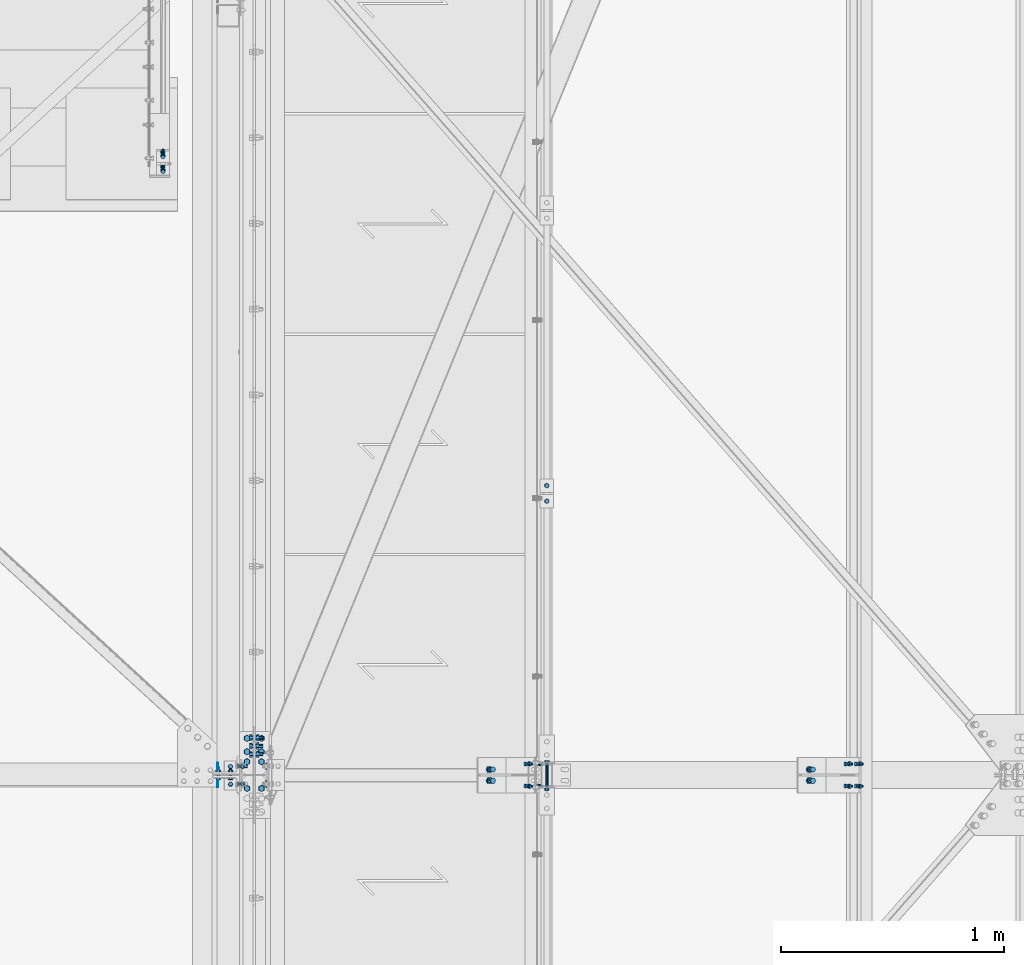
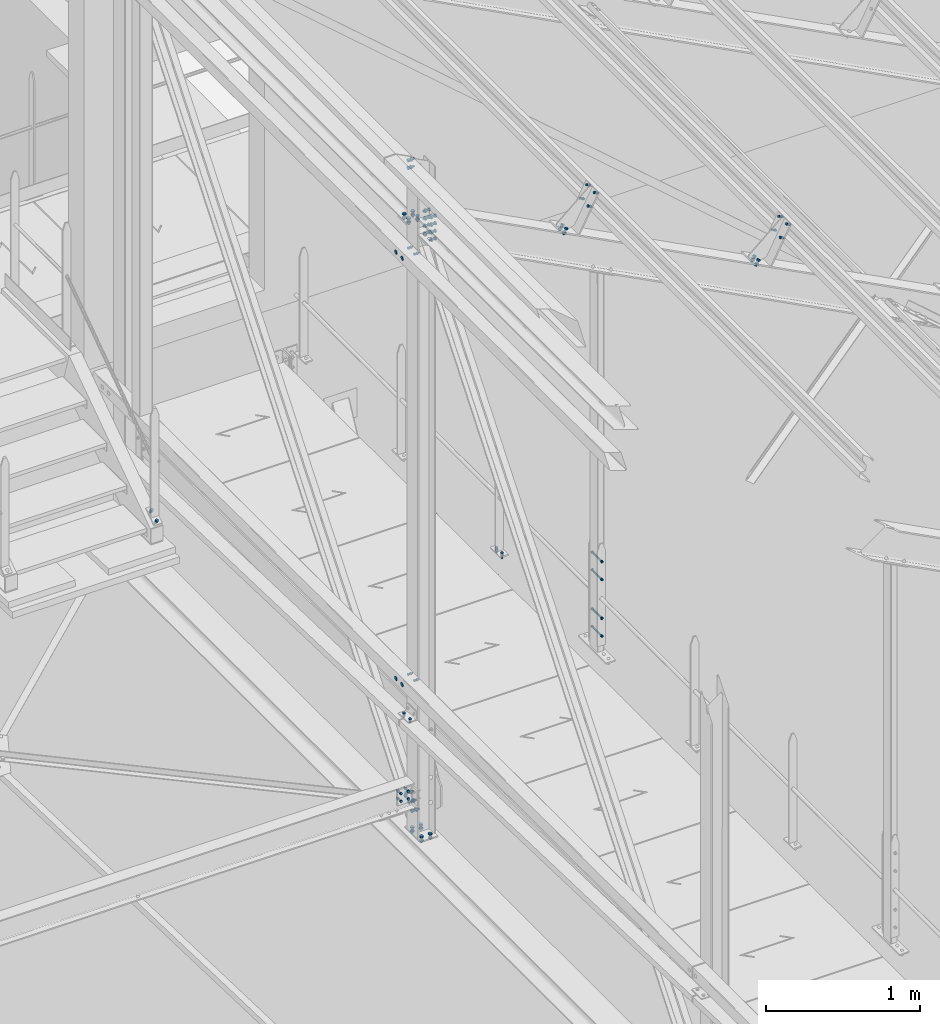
# One storey, part 156 of 362: 19 mechanical fasteners.
"""IFC2X3 building model written with IfcOpenShell, lengths in millimetres."""

from ifc_helpers import new_model, si_unit, frame, frame_2d, origin_with_axes, origin_2d_with_axis, place, context, subcontext, project, spatial, polyline, circle_curve, parameter, trimmed, segment, composite_curve, circle, outline, extrude, source, transform, mapped, material, type_object, element, save


model = new_model("IFC2X3")

# Units and contexts
model_context = context("Model", 3, precision=1e-05, world=origin_with_axes())
body_context = subcontext(model_context, "Body", "Model", "MODEL_VIEW")
ifc_project = project(units=[si_unit("LENGTHUNIT", "METRE", prefix="MILLI"), si_unit("AREAUNIT", "SQUARE_METRE"), si_unit("VOLUMEUNIT", "CUBIC_METRE"), si_unit("MASSUNIT", "GRAM", prefix="KILO"), si_unit("TIMEUNIT", "SECOND"), si_unit("PLANEANGLEUNIT", "RADIAN"), si_unit("SOLIDANGLEUNIT", "STERADIAN"), si_unit("THERMODYNAMICTEMPERATUREUNIT", "DEGREE_CELSIUS"), si_unit("LUMINOUSINTENSITYUNIT", "LUMEN")], contexts=[model_context])

# Site, building, storey
site_placement = place(None, origin_with_axes())
site = spatial("IfcSite", under=ifc_project, at=site_placement, Name="Undefined", CompositionType="ELEMENT")
building_placement = place(site_placement, origin_with_axes())
building = spatial("IfcBuilding", under=site, at=building_placement, Name="Undefined", CompositionType="ELEMENT")
storey_placement = place(building_placement, origin_with_axes())
storey = spatial("IfcBuildingStorey", under=building, at=storey_placement, Name="Undefined", CompositionType="ELEMENT", Elevation=0.0)

# Mechanical fasteners
ifc_material_1 = material(Name="8.8-SB-GALVA")
mechanical_fastener_type = type_object("IfcMechanicalFastenerType", Name="Bolt assembly")
shared_shape_1 = source(origin_with_axes(), body_context, "Body", "SweptSolid", [
    extrude(circle(Radius=7.0, at=origin_2d_with_axis()), frame((0.0, -0.0998569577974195, 0.0), z_axis=(0.0, 1.0, 0.0), x_axis=(1.0, 0.0, 0.0)), (0.0, 0.0, 1.0), 12.9),
    extrude(outline(composite_curve([segment(polyline([(-7.0, 7.0), (7.0, 7.0)]), True, "CONTINUOUS"), segment(trimmed(circle_curve(frame_2d((7.0, 0.0), x_axis=(0.0, 1.0)), 7.0), [parameter(0.0)], [parameter(3.14159265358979)], False, "PARAMETER"), True, "CONTINUOUS"), segment(polyline([(7.0, -7.0), (-7.0, -7.0)]), True, "CONTINUOUS"), segment(trimmed(circle_curve(frame_2d((-7.0, 0.0), x_axis=(0.0, -1.0)), 7.0), [parameter(0.0)], [parameter(3.14159265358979)], False, "PARAMETER"), True, "DISCONTINUOUS")], self_intersect=False)), frame((0.0, -9.9, 0.0), z_axis=(0.0, 1.0, 0.0), x_axis=(1.0, 0.0, 0.0)), (0.0, 0.0, 1.0), 10.0),
    extrude(outline(polyline([(10.39230484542, 0.0), (5.19615242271, 9.00000000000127), (-5.19615242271, 9.00000000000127), (-10.39230484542, 0.0), (-5.19615242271, -9.00000000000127), (5.19615242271, -9.00000000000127), (10.39230484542, 0.0)])), frame((0.0, -21.88, 0.0), z_axis=(0.0, 1.0, 0.0), x_axis=(1.0, 0.0, 0.0)), (0.0, 0.0, 1.0), 7.92),
    extrude(circle(Radius=6.0, at=origin_2d_with_axis()), frame((0.0, -13.96, 0.0), z_axis=(0.0, 1.0, 0.0), x_axis=(1.0, 0.0, 0.0)), (0.0, 0.0, 1.0), 50.0),
    extrude(circle(Radius=10.8, at=origin_2d_with_axis()), frame((0.0, -13.96, 0.0), z_axis=(0.0, 1.0, 0.0), x_axis=(1.0, 0.0, 0.0)), (0.0, 0.0, 1.0), 3.96),
    extrude(outline(polyline([(11.5008173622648, 0.0), (5.7504086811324, 9.96000000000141), (-5.7504086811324, 9.96000000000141), (-11.5008173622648, 0.0), (-5.7504086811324, -9.96000000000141), (5.7504086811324, -9.96000000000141), (11.5008173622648, 0.0)])), frame((0.0, 12.8001574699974, 0.0), z_axis=(0.0, 1.0, 0.0), x_axis=(1.0, 0.0, 0.0)), (0.0, 0.0, 1.0), 7.92),
])
mechanical_fastener_1_placement = place(storey_placement, frame((12269.9936634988, 14121.9152267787, 8200.9414556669), z_axis=(-1.0, 0.0, 0.0), x_axis=(0.0, 0.822192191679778, 0.56920997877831)))
element("IfcMechanicalFastener", 1, at=mechanical_fastener_1_placement, inside=storey, type_object=mechanical_fastener_type, material=ifc_material_1, Name="Bolt assembly", NominalDiameter=12.0, NominalLength=50.0, context=body_context, shape_type="MappedRepresentation", body=[
    mapped(shared_shape_1, transform((0.0, 0.0, 0.0))),
    mapped(shared_shape_1, transform((80.0, 0.0, 0.0))),
])
ifc_material_2 = material(Name="6.8")
shared_shape_2 = source(origin_with_axes(), body_context, "Body", "SweptSolid", [
    extrude(circle(Radius=15.0, at=origin_2d_with_axis()), frame((0.0, 0.0, 0.0), z_axis=(0.0, 1.0, 0.0), x_axis=(1.0, 0.0, 0.0)), (0.0, 0.0, 1.0), 4.1),
])
mechanical_fastener_2_placement = place(storey_placement, frame((12513.5000000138, 11400.0, 11870.0), z_axis=(0.0, 1.0, 0.0), x_axis=(0.0, 0.0, 1.0)))
element("IfcMechanicalFastener", 2, at=mechanical_fastener_2_placement, inside=storey, type_object=mechanical_fastener_type, material=ifc_material_2, Name="Bolt assembly", NominalDiameter=30.0, NominalLength=4.0, context=body_context, shape_type="MappedRepresentation", body=[
    mapped(shared_shape_2, transform((0.0, 0.0, 40.0))),
    mapped(shared_shape_2, transform((0.0, 0.0, -40.0))),
])
mechanical_fastener_3_placement = place(storey_placement, frame((12513.5000000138, 11400.0, 8500.0), z_axis=(0.0, -1.0, 0.0), x_axis=(0.0, 0.0, -1.0)))
element("IfcMechanicalFastener", 3, at=mechanical_fastener_3_placement, inside=storey, type_object=mechanical_fastener_type, material=ifc_material_2, Name="Bolt assembly", NominalDiameter=30.0, NominalLength=4.0, context=body_context, shape_type="MappedRepresentation", body=[
    mapped(shared_shape_2, transform((0.0, 0.0, -40.0))),
    mapped(shared_shape_2, transform((0.0, 0.0, 40.0))),
])
ifc_material_3 = material(Name="8.8-SB-ZINGUE")
shared_shape_3 = source(origin_with_axes(), body_context, "Body", "SweptSolid", [
    extrude(circle(Radius=9.0, at=origin_2d_with_axis()), frame((0.0, -10.9000000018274, 0.0), z_axis=(0.0, 1.0, 0.0), x_axis=(1.0, 0.0, 0.0)), (0.0, 0.0, 1.0), 6.0),
    extrude(circle(Radius=9.0, at=origin_2d_with_axis()), frame((0.0, 4.9000000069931, 0.0), z_axis=(0.0, 1.0, 0.0), x_axis=(1.0, 0.0, 0.0)), (0.0, 0.0, 1.0), 6.1),
    extrude(circle(Radius=9.0, at=origin_2d_with_axis()), frame((0.0, -3.99999923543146, 0.0), z_axis=(0.0, 1.0, 0.0), x_axis=(1.0, 0.0, 0.0)), (0.0, 0.0, 1.0), 8.0),
    extrude(outline(polyline([(13.85640646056, 0.0), (6.92820323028, 12.0000000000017), (-6.92820323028, 12.0000000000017), (-13.85640646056, 0.0), (-6.92820323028, -12.0000000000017), (6.92820323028, -12.0000000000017), (13.85640646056, 0.0)])), frame((0.0, -21.5600000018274, 0.0), z_axis=(0.0, 1.0, 0.0), x_axis=(1.0, 0.0, 0.0)), (0.0, 0.0, 1.0), 10.56),
    extrude(circle(Radius=8.0, at=origin_2d_with_axis()), frame((0.0, -11.0000000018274, 0.0), z_axis=(0.0, 1.0, 0.0), x_axis=(1.0, 0.0, 0.0)), (0.0, 0.0, 1.0), 50.0),
    extrude(outline(polyline([(15.3344231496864, 0.0), (7.6672115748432, 13.2800000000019), (-7.6672115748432, 13.2800000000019), (-15.3344231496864, 0.0), (-7.6672115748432, -13.2800000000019), (7.6672115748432, -13.2800000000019), (15.3344231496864, 0.0)])), frame((0.0, 11.0000000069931, 0.0), z_axis=(0.0, 1.0, 0.0), x_axis=(1.0, 0.0, 0.0)), (0.0, 0.0, 1.0), 10.56),
])
mechanical_fastener_4_placement = place(storey_placement, frame((12680.0, 11493.2606296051, 7367.48384980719), z_axis=(0.0, 0.783225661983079, -0.621737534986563), x_axis=(0.0, 0.621737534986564, 0.783225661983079)))
element("IfcMechanicalFastener", 4, at=mechanical_fastener_4_placement, inside=storey, type_object=mechanical_fastener_type, material=ifc_material_3, Name="Bolt assembly", NominalDiameter=16.0, NominalLength=50.0, context=body_context, shape_type="MappedRepresentation", body=[
    mapped(shared_shape_3, transform((0.0, 0.0, 0.0))),
    mapped(shared_shape_3, transform((60.0, 0.0, 0.0))),
    mapped(shared_shape_3, transform((120.0, 0.0, 0.0))),
])
shared_shape_4 = source(origin_with_axes(), body_context, "Body", "SweptSolid", [
    extrude(circle(Radius=7.0, at=origin_2d_with_axis()), frame((0.0, -10.0000010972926, 0.0), z_axis=(0.0, 1.0, 0.0), x_axis=(1.0, 0.0, 0.0)), (0.0, 0.0, 1.0), 10.1),
    extrude(outline(polyline([(10.39230484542, 0.0), (5.19615242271, 9.00000000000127), (-5.19615242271, 9.00000000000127), (-10.39230484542, 0.0), (-5.19615242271, -9.00000000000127), (5.19615242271, -9.00000000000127), (10.39230484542, 0.0)])), frame((0.0, -17.92, 0.0), z_axis=(0.0, 1.0, 0.0), x_axis=(1.0, 0.0, 0.0)), (0.0, 0.0, 1.0), 7.92),
    extrude(circle(Radius=6.0, at=origin_2d_with_axis()), frame((0.0, -10.0000010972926, 0.0), z_axis=(0.0, 1.0, 0.0), x_axis=(1.0, 0.0, 0.0)), (0.0, 0.0, 1.0), 40.0),
    extrude(outline(polyline([(11.5008173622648, 0.0), (5.7504086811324, 9.96000000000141), (-5.7504086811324, 9.96000000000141), (-11.5008173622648, 0.0), (-5.7504086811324, -9.96000000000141), (5.7504086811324, -9.96000000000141), (11.5008173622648, 0.0)])), frame((0.0, 0.0, 0.0), z_axis=(0.0, 1.0, 0.0), x_axis=(1.0, 0.0, 0.0)), (0.0, 0.0, 1.0), 7.92),
])
mechanical_fastener_5_placement = place(storey_placement, frame((13993.9998915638, 12630.0034471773, 8239.99999832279), z_axis=(-1.0, 0.0, 0.0), x_axis=(0.0, 1.0, 0.0)))
element("IfcMechanicalFastener", 5, at=mechanical_fastener_5_placement, inside=storey, type_object=mechanical_fastener_type, material=ifc_material_3, Name="Bolt assembly", NominalDiameter=12.0, NominalLength=40.0, context=body_context, shape_type="MappedRepresentation", body=[
    mapped(shared_shape_4, transform((0.0, 0.0, 0.0))),
    mapped(shared_shape_4, transform((70.0, -2.91038304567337e-11, 2.18278728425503e-10))),
])
shared_shape_5 = source(origin_with_axes(), body_context, "Body", "SweptSolid", [
    extrude(circle(Radius=7.0, at=origin_2d_with_axis()), frame((0.0, -49.9999013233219, 0.0), z_axis=(0.0, 1.0, 0.0), x_axis=(1.0, 0.0, 0.0)), (0.0, 0.0, 1.0), 100.0),
    extrude(circle(Radius=7.0, at=origin_2d_with_axis()), frame((0.0, -57.3998951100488, 0.0), z_axis=(0.0, 1.0, 0.0), x_axis=(1.0, 0.0, 0.0)), (0.0, 0.0, 1.0), 5.0),
    extrude(circle(Radius=7.0, at=origin_2d_with_axis()), frame((0.0, 52.4001048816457, 0.0), z_axis=(0.0, 1.0, 0.0), x_axis=(1.0, 0.0, 0.0)), (0.0, 0.0, 1.0), 5.1),
    extrude(outline(polyline([(10.96965511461, 0.0), (5.484827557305, 9.50000000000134), (-5.484827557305, 9.50000000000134), (-10.96965511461, 0.0), (-5.484827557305, -9.50000000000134), (5.484827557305, -9.50000000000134), (10.96965511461, 0.0)])), frame((0.0, -65.4998951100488, 0.0), z_axis=(0.0, 1.0, 0.0), x_axis=(1.0, 0.0, 0.0)), (0.0, 0.0, 1.0), 8.0),
    extrude(circle(Radius=6.0, at=origin_2d_with_axis()), frame((0.0, -57.4998951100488, 0.0), z_axis=(0.0, 1.0, 0.0), x_axis=(1.0, 0.0, 0.0)), (0.0, 0.0, 1.0), 130.0),
    extrude(outline(polyline([(10.39230484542, 0.0), (5.19615242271, 9.00000000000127), (-5.19615242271, 9.00000000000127), (-10.39230484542, 0.0), (-5.19615242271, -9.00000000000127), (5.19615242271, -9.00000000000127), (10.39230484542, 0.0)])), frame((0.0, 57.5001048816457, 0.0), z_axis=(0.0, 1.0, 0.0), x_axis=(1.0, 0.0, 0.0)), (0.0, 0.0, 1.0), 10.8),
])
for number, where, z_axis, x_axis, name in (
    (6, (13993.9998909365, 11400.0001139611, 8450.1750016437), (0.0, 0.0, 1.0), (-1.0, 0.0, 0.0), "Bolt assembly"),
    (7, (13993.9998909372, 11400.0001143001, 8897.42499864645), (0.0, 0.0, 1.0), (-1.0, 0.0, 0.0), "Bolt assembly"),
):
    element("IfcMechanicalFastener", number, at=place(storey_placement, frame(where, z_axis=z_axis, x_axis=x_axis)), inside=storey, type_object=mechanical_fastener_type, material=ifc_material_2, Name=name, NominalDiameter=12.0, NominalLength=130.0, context=body_context, shape_type="MappedRepresentation", body=[
        mapped(shared_shape_5, transform((0.0, 6.3664629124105e-11, -70.0))),
        mapped(shared_shape_5, transform((0.0, -6.3664629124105e-11, 70.0))),
    ])
shared_shape_6 = source(origin_with_axes(), body_context, "Body", "SweptSolid", [
    extrude(circle(Radius=7.0, at=origin_2d_with_axis()), frame((0.0, -0.100011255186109, 0.0), z_axis=(0.0, 1.0, 0.0), x_axis=(1.0, 0.0, 0.0)), (0.0, 0.0, 1.0), 1.6),
    extrude(circle(Radius=7.0, at=origin_2d_with_axis()), frame((0.0, -9.9, 0.0), z_axis=(0.0, 1.0, 0.0), x_axis=(1.0, 0.0, 0.0)), (0.0, 0.0, 1.0), 10.0),
    extrude(outline(polyline([(10.39230484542, 0.0), (5.19615242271, 9.00000000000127), (-5.19615242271, 9.00000000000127), (-10.39230484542, 0.0), (-5.19615242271, -9.00000000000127), (5.19615242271, -9.00000000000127), (10.39230484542, 0.0)])), frame((0.0, -17.92, 0.0), z_axis=(0.0, 1.0, 0.0), x_axis=(1.0, 0.0, 0.0)), (0.0, 0.0, 1.0), 7.92),
    extrude(circle(Radius=6.0, at=origin_2d_with_axis()), frame((0.0, -10.0000010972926, 0.0), z_axis=(0.0, 1.0, 0.0), x_axis=(1.0, 0.0, 0.0)), (0.0, 0.0, 1.0), 30.0),
    extrude(outline(polyline([(11.5008173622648, 0.0), (5.7504086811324, 9.96000000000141), (-5.7504086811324, 9.96000000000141), (-11.5008173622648, 0.0), (-5.7504086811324, -9.96000000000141), (5.7504086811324, -9.96000000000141), (11.5008173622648, 0.0)])), frame((0.0, 1.50001896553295, 0.0), z_axis=(0.0, 1.0, 0.0), x_axis=(1.0, 0.0, 0.0)), (0.0, 0.0, 1.0), 7.92),
])
for number, where, z_axis, x_axis, name in (
    (8, (13910.5352247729, 11400.0000596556, 11798.7689104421), (0.0, 1.0, 0.0), (0.463528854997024, 6.99999093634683e-09, 0.886081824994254), "Bolt assembly"),
    (9, (15347.8352673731, 11400.0000596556, 11046.8866202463), (0.0, 1.0, 0.0), (0.463528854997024, 6.99999093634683e-09, 0.886081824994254), "Bolt assembly"),
):
    element("IfcMechanicalFastener", number, at=place(storey_placement, frame(where, z_axis=z_axis, x_axis=x_axis)), inside=storey, type_object=mechanical_fastener_type, material=ifc_material_3, Name=name, NominalDiameter=12.0, NominalLength=30.0, context=body_context, shape_type="MappedRepresentation", body=[
        mapped(shared_shape_6, transform((0.0, 0.0, -50.0))),
        mapped(shared_shape_6, transform((102.00000000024, -2.51020537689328e-10, -50.0))),
        mapped(shared_shape_6, transform((0.0, 0.0, 50.0))),
        mapped(shared_shape_6, transform((102.00000000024, -2.51020537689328e-10, 50.0))),
    ])
shared_shape_7 = source(origin_with_axes(), body_context, "Body", "SweptSolid", [
    extrude(circle(Radius=9.0, at=origin_2d_with_axis()), frame((0.0, -0.10007666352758, 0.0), z_axis=(0.0, 1.0, 0.0), x_axis=(1.0, 0.0, 0.0)), (0.0, 0.0, 1.0), 9.9),
    extrude(circle(Radius=9.0, at=origin_2d_with_axis()), frame((0.0, -9.9, 0.0), z_axis=(0.0, 1.0, 0.0), x_axis=(1.0, 0.0, 0.0)), (0.0, 0.0, 1.0), 10.0),
    extrude(outline(polyline([(13.85640646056, 0.0), (6.92820323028, 12.0000000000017), (-6.92820323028, 12.0000000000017), (-13.85640646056, 0.0), (-6.92820323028, -12.0000000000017), (6.92820323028, -12.0000000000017), (13.85640646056, 0.0)])), frame((0.0, -20.5600000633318, 0.0), z_axis=(0.0, 1.0, 0.0), x_axis=(1.0, 0.0, 0.0)), (0.0, 0.0, 1.0), 10.56),
    extrude(circle(Radius=8.0, at=origin_2d_with_axis()), frame((0.0, -10.0000010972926, 0.0), z_axis=(0.0, 1.0, 0.0), x_axis=(1.0, 0.0, 0.0)), (0.0, 0.0, 1.0), 40.0),
    extrude(outline(polyline([(15.3344231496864, 0.0), (7.6672115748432, 13.2800000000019), (-7.6672115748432, 13.2800000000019), (-15.3344231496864, 0.0), (-7.6672115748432, -13.2800000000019), (7.6672115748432, -13.2800000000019), (15.3344231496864, 0.0)])), frame((0.0, 9.7999015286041, 0.0), z_axis=(0.0, 1.0, 0.0), x_axis=(1.0, 0.0, 0.0)), (0.0, 0.0, 1.0), 10.56),
])
mechanical_fastener_6_placement = place(storey_placement, frame((13742.7711979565, 11400.0000375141, 11650.660042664), z_axis=(0.0, 1.0, 0.0), x_axis=(0.886081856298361, 3.500000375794e-08, -0.463528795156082)))
element("IfcMechanicalFastener", 10, at=mechanical_fastener_6_placement, inside=storey, type_object=mechanical_fastener_type, material=ifc_material_3, Name="Bolt assembly", NominalDiameter=16.0, NominalLength=40.0, context=body_context, shape_type="MappedRepresentation", body=[
    mapped(shared_shape_7, transform((0.0, 0.0, -25.0))),
    mapped(shared_shape_7, transform((0.0, 0.0, 25.0))),
])
shared_shape_8 = source(origin_with_axes(), body_context, "Body", "SweptSolid", [
    extrude(circle(Radius=9.0, at=origin_2d_with_axis()), frame((0.0, -0.100011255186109, 0.0), z_axis=(0.0, 1.0, 0.0), x_axis=(1.0, 0.0, 0.0)), (0.0, 0.0, 1.0), 9.9),
    extrude(circle(Radius=9.0, at=origin_2d_with_axis()), frame((0.0, -9.9, 0.0), z_axis=(0.0, 1.0, 0.0), x_axis=(1.0, 0.0, 0.0)), (0.0, 0.0, 1.0), 10.0),
    extrude(outline(polyline([(13.85640646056, 0.0), (6.92820323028, 12.0000000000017), (-6.92820323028, 12.0000000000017), (-13.85640646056, 0.0), (-6.92820323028, -12.0000000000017), (6.92820323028, -12.0000000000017), (13.85640646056, 0.0)])), frame((0.0, -20.5600000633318, 0.0), z_axis=(0.0, 1.0, 0.0), x_axis=(1.0, 0.0, 0.0)), (0.0, 0.0, 1.0), 10.56),
    extrude(circle(Radius=8.0, at=origin_2d_with_axis()), frame((0.0, -10.0000010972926, 0.0), z_axis=(0.0, 1.0, 0.0), x_axis=(1.0, 0.0, 0.0)), (0.0, 0.0, 1.0), 40.0),
    extrude(outline(polyline([(15.3344231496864, 0.0), (7.6672115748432, 13.2800000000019), (-7.6672115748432, 13.2800000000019), (-15.3344231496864, 0.0), (-7.6672115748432, -13.2800000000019), (7.6672115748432, -13.2800000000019), (15.3344231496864, 0.0)])), frame((0.0, 9.80000019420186, 0.0), z_axis=(0.0, 1.0, 0.0), x_axis=(1.0, 0.0, 0.0)), (0.0, 0.0, 1.0), 10.56),
])
mechanical_fastener_7_placement = place(storey_placement, frame((15180.0712405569, 11400.0000375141, 10898.7777524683), z_axis=(0.0, 1.0, 0.0), x_axis=(0.886081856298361, 3.500000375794e-08, -0.463528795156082)))
element("IfcMechanicalFastener", 11, at=mechanical_fastener_7_placement, inside=storey, type_object=mechanical_fastener_type, material=ifc_material_3, Name="Bolt assembly", NominalDiameter=16.0, NominalLength=40.0, context=body_context, shape_type="MappedRepresentation", body=[
    mapped(shared_shape_8, transform((0.0, 0.0, -25.0))),
    mapped(shared_shape_8, transform((0.0, 0.0, 25.0))),
])
shared_shape_9 = source(origin_with_axes(), body_context, "Body", "SweptSolid", [
    extrude(circle(Radius=9.0, at=origin_2d_with_axis()), frame((0.0, -0.091713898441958, 0.0), z_axis=(0.0, 1.0, 0.0), x_axis=(1.0, 0.0, 0.0)), (0.0, 0.0, 1.0), 8.6),
    extrude(circle(Radius=9.0, at=origin_2d_with_axis()), frame((0.0, -9.89171439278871, 0.0), z_axis=(0.0, 1.0, 0.0), x_axis=(1.0, 0.0, 0.0)), (0.0, 0.0, 1.0), 10.0),
    extrude(outline(polyline([(13.85640646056, 0.0), (6.92820323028, 12.0000000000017), (-6.92820323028, 12.0000000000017), (-13.85640646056, 0.0), (-6.92820323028, -12.0000000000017), (6.92820323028, -12.0000000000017), (13.85640646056, 0.0)])), frame((0.0, -20.5517143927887, 0.0), z_axis=(0.0, 1.0, 0.0), x_axis=(1.0, 0.0, 0.0)), (0.0, 0.0, 1.0), 10.56),
    extrude(circle(Radius=8.0, at=origin_2d_with_axis()), frame((0.0, -9.99171439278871, 0.0), z_axis=(0.0, 1.0, 0.0), x_axis=(1.0, 0.0, 0.0)), (0.0, 0.0, 1.0), 40.0),
    extrude(outline(polyline([(15.3344231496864, 0.0), (7.6672115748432, 13.2800000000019), (-7.6672115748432, 13.2800000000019), (-15.3344231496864, 0.0), (-7.6672115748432, -13.2800000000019), (7.6672115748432, -13.2800000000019), (15.3344231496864, 0.0)])), frame((0.0, 8.50828610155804, 0.0), z_axis=(0.0, 1.0, 0.0), x_axis=(1.0, 0.0, 0.0)), (0.0, 0.0, 1.0), 10.56),
])
mechanical_fastener_8_placement = place(storey_placement, frame((12746.5082856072, 11360.0, 12031.1720690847), z_axis=(0.0, 0.0, 1.0), x_axis=(0.0, 1.0, 0.0)))
element("IfcMechanicalFastener", 12, at=mechanical_fastener_8_placement, inside=storey, type_object=mechanical_fastener_type, material=ifc_material_3, Name="Bolt assembly", NominalDiameter=16.0, NominalLength=40.0, context=body_context, shape_type="MappedRepresentation", body=[
    mapped(shared_shape_9, transform((-8.00355337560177e-11, 1.57342583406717e-10, -90.000000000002))),
    mapped(shared_shape_9, transform((80.0, 0.0, -90.0))),
    mapped(shared_shape_9, transform((0.0, 0.0, -30.0))),
    mapped(shared_shape_9, transform((80.0, 0.0, -30.0))),
    mapped(shared_shape_9, transform((0.0, 0.0, 30.0))),
    mapped(shared_shape_9, transform((80.0, 0.0, 30.0))),
    mapped(shared_shape_9, transform((8.36735125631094e-11, -1.5825207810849e-10, 90.0))),
    mapped(shared_shape_9, transform((80.0, 0.0, 90.0))),
])
shared_shape_10 = source(origin_with_axes(), body_context, "Body", "SweptSolid", [
    extrude(circle(Radius=7.0, at=origin_2d_with_axis()), frame((0.0, -0.100011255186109, 0.0), z_axis=(0.0, 1.0, 0.0), x_axis=(1.0, 0.0, 0.0)), (0.0, 0.0, 1.0), 8.6),
    extrude(circle(Radius=7.0, at=origin_2d_with_axis()), frame((0.0, -3.89999843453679, 0.0), z_axis=(0.0, 1.0, 0.0), x_axis=(1.0, 0.0, 0.0)), (0.0, 0.0, 1.0), 4.0),
    extrude(outline(polyline([(10.39230484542, 0.0), (5.19615242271, 9.00000000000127), (-5.19615242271, 9.00000000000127), (-10.39230484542, 0.0), (-5.19615242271, -9.00000000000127), (5.19615242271, -9.00000000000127), (10.39230484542, 0.0)])), frame((0.0, -11.9199984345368, 0.0), z_axis=(0.0, 1.0, 0.0), x_axis=(1.0, 0.0, 0.0)), (0.0, 0.0, 1.0), 7.92),
    extrude(circle(Radius=6.0, at=origin_2d_with_axis()), frame((0.0, -3.99999923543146, 0.0), z_axis=(0.0, 1.0, 0.0), x_axis=(1.0, 0.0, 0.0)), (0.0, 0.0, 1.0), 30.0),
    extrude(outline(polyline([(11.5008173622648, 0.0), (5.7504086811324, 9.96000000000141), (-5.7504086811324, 9.96000000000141), (-11.5008173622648, 0.0), (-5.7504086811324, -9.96000000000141), (5.7504086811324, -9.96000000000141), (11.5008173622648, 0.0)])), frame((0.0, 8.49999994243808, 0.0), z_axis=(0.0, 1.0, 0.0), x_axis=(1.0, 0.0, 0.0)), (0.0, 0.0, 1.0), 7.92),
])
for number, where, z_axis, x_axis, name in (
    (13, (12613.5, 11400.0, 11869.9999981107), (0.0, 1.0, 0.0), (0.0, 0.0, 1.0), "Bolt assembly"),
    (14, (12613.5, 11400.0, 8500.00000188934), (0.0, -1.0, 0.0), (0.0, 0.0, -1.0), "Bolt assembly"),
):
    element("IfcMechanicalFastener", number, at=place(storey_placement, frame(where, z_axis=z_axis, x_axis=x_axis)), inside=storey, type_object=mechanical_fastener_type, material=ifc_material_3, Name=name, NominalDiameter=12.0, NominalLength=30.0, context=body_context, shape_type="MappedRepresentation", body=[
        mapped(shared_shape_10, transform((0.0, 0.0, -40.0))),
        mapped(shared_shape_10, transform((0.0, 0.0, 40.0))),
    ])
shared_shape_11 = source(origin_with_axes(), body_context, "Body", "SweptSolid", [
    extrude(circle(Radius=9.0, at=origin_2d_with_axis()), frame((0.0, -0.100011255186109, 0.0), z_axis=(0.0, 1.0, 0.0), x_axis=(1.0, 0.0, 0.0)), (0.0, 0.0, 1.0), 8.6),
    extrude(circle(Radius=9.0, at=origin_2d_with_axis()), frame((0.0, -2.9, 0.0), z_axis=(0.0, 1.0, 0.0), x_axis=(1.0, 0.0, 0.0)), (0.0, 0.0, 1.0), 3.0),
    extrude(outline(polyline([(13.85640646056, 0.0), (6.92820323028, 12.0000000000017), (-6.92820323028, 12.0000000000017), (-13.85640646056, 0.0), (-6.92820323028, -12.0000000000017), (6.92820323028, -12.0000000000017), (13.85640646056, 0.0)])), frame((0.0, -13.56, 0.0), z_axis=(0.0, 1.0, 0.0), x_axis=(1.0, 0.0, 0.0)), (0.0, 0.0, 1.0), 10.56),
    extrude(circle(Radius=8.0, at=origin_2d_with_axis()), frame((0.0, -2.99999932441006, 0.0), z_axis=(0.0, 1.0, 0.0), x_axis=(1.0, 0.0, 0.0)), (0.0, 0.0, 1.0), 40.0),
    extrude(outline(polyline([(15.3344231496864, 0.0), (7.6672115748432, 13.2800000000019), (-7.6672115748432, 13.2800000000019), (-15.3344231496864, 0.0), (-7.6672115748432, -13.2800000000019), (7.6672115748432, -13.2800000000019), (15.3344231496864, 0.0)])), frame((0.0, 8.49999994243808, 0.0), z_axis=(0.0, 1.0, 0.0), x_axis=(1.0, 0.0, 0.0)), (0.0, 0.0, 1.0), 10.56),
])
mechanical_fastener_9_placement = place(storey_placement, frame((12613.5000000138, 11439.9969509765, 12503.832072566), z_axis=(0.0, 1.0, 0.0), x_axis=(0.0, 0.0, 1.0)))
element("IfcMechanicalFastener", 15, at=mechanical_fastener_9_placement, inside=storey, type_object=mechanical_fastener_type, material=ifc_material_3, Name="Bolt assembly", NominalDiameter=16.0, NominalLength=40.0, context=body_context, shape_type="MappedRepresentation", body=[
    mapped(shared_shape_11, transform((0.0, 0.0, 0.0))),
    mapped(shared_shape_11, transform((60.0, 0.0, 0.0))),
])
shared_shape_12 = source(origin_with_axes(), body_context, "Body", "SweptSolid", [
    extrude(circle(Radius=7.0, at=origin_2d_with_axis()), frame((0.0, -0.10007666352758, 0.0), z_axis=(0.0, 1.0, 0.0), x_axis=(1.0, 0.0, 0.0)), (0.0, 0.0, 1.0), 4.1),
    extrude(circle(Radius=7.0, at=origin_2d_with_axis()), frame((0.0, -6.9, 0.0), z_axis=(0.0, 1.0, 0.0), x_axis=(1.0, 0.0, 0.0)), (0.0, 0.0, 1.0), 7.0),
    extrude(outline(polyline([(10.39230484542, 0.0), (5.19615242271, 9.00000000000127), (-5.19615242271, 9.00000000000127), (-10.39230484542, 0.0), (-5.19615242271, -9.00000000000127), (5.19615242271, -9.00000000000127), (10.39230484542, 0.0)])), frame((0.0, -14.92, 0.0), z_axis=(0.0, 1.0, 0.0), x_axis=(1.0, 0.0, 0.0)), (0.0, 0.0, 1.0), 7.92),
    extrude(circle(Radius=6.0, at=origin_2d_with_axis()), frame((0.0, -7.0, 0.0), z_axis=(0.0, 1.0, 0.0), x_axis=(1.0, 0.0, 0.0)), (0.0, 0.0, 1.0), 30.0),
    extrude(outline(polyline([(11.5008173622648, 0.0), (5.7504086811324, 9.96000000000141), (-5.7504086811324, 9.96000000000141), (-11.5008173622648, 0.0), (-5.7504086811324, -9.96000000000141), (5.7504086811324, -9.96000000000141), (11.5008173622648, 0.0)])), frame((0.0, 4.00000005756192, 0.0), z_axis=(0.0, 1.0, 0.0), x_axis=(1.0, 0.0, 0.0)), (0.0, 0.0, 1.0), 7.92),
])
mechanical_fastener_10_placement = place(storey_placement, frame((12573.5000000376, 11398.7434557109, 8197.04057146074), z_axis=(0.0, 0.99950644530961, -0.0314144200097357), x_axis=(1.0, 0.0, 0.0)))
element("IfcMechanicalFastener", 16, at=mechanical_fastener_10_placement, inside=storey, type_object=mechanical_fastener_type, material=ifc_material_3, Name="Bolt assembly", NominalDiameter=12.0, NominalLength=30.0, context=body_context, shape_type="MappedRepresentation", body=[
    mapped(shared_shape_12, transform((0.0, 0.0, -40.0))),
    mapped(shared_shape_12, transform((0.0, 0.0, 40.0))),
])
shared_shape_13 = source(origin_with_axes(), body_context, "Body", "SweptSolid", [
    extrude(circle(Radius=7.0, at=origin_2d_with_axis()), frame((0.0, -2.80024280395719, 0.0), z_axis=(0.0, 1.0, 0.0), x_axis=(1.0, 0.0, 0.0)), (0.0, 0.0, 1.0), 5.6),
    extrude(circle(Radius=7.0, at=origin_2d_with_axis()), frame((0.0, -12.9001594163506, 0.0), z_axis=(0.0, 1.0, 0.0), x_axis=(1.0, 0.0, 0.0)), (0.0, 0.0, 1.0), 10.0),
    extrude(circle(Radius=7.0, at=origin_2d_with_axis()), frame((0.0, 2.90070287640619, 0.0), z_axis=(0.0, 1.0, 0.0), x_axis=(1.0, 0.0, 0.0)), (0.0, 0.0, 1.0), 10.1),
    extrude(outline(polyline([(10.39230484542, 0.0), (5.19615242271, 9.00000000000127), (-5.19615242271, 9.00000000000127), (-10.39230484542, 0.0), (-5.19615242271, -9.00000000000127), (5.19615242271, -9.00000000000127), (10.39230484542, 0.0)])), frame((0.0, -20.9201594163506, 0.0), z_axis=(0.0, 1.0, 0.0), x_axis=(1.0, 0.0, 0.0)), (0.0, 0.0, 1.0), 7.92),
    extrude(circle(Radius=6.0, at=origin_2d_with_axis()), frame((0.0, -13.0001594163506, 0.0), z_axis=(0.0, 1.0, 0.0), x_axis=(1.0, 0.0, 0.0)), (0.0, 0.0, 1.0), 50.0),
    extrude(outline(polyline([(11.5008173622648, 0.0), (5.7504086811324, 9.96000000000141), (-5.7504086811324, 9.96000000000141), (-11.5008173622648, 0.0), (-5.7504086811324, -9.96000000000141), (5.7504086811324, -9.96000000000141), (11.5008173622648, 0.0)])), frame((0.0, 13.0007028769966, 0.0), z_axis=(0.0, 1.0, 0.0), x_axis=(1.0, 0.0, 0.0)), (0.0, 0.0, 1.0), 7.92),
])
mechanical_fastener_11_placement = place(storey_placement, frame((12518.4999999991, 11400.0001456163, 7591.68938517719), z_axis=(7.58071938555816e-11, 0.0314107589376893, 0.999506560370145), x_axis=(0.999999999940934, -1.08559999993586e-05, 5.27999997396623e-07)))
element("IfcMechanicalFastener", 17, at=mechanical_fastener_11_placement, inside=storey, type_object=mechanical_fastener_type, material=ifc_material_3, Name="Bolt assembly", NominalDiameter=12.0, NominalLength=50.0, context=body_context, shape_type="MappedRepresentation", body=[
    mapped(shared_shape_13, transform((0.0, 0.0, -30.0))),
    mapped(shared_shape_13, transform((55.0000000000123, 3.45607986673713e-11, -30.0000000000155))),
    mapped(shared_shape_13, transform((0.0, 0.0, 30.0))),
    mapped(shared_shape_13, transform((54.9999999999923, 3.45607986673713e-11, 29.9999999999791))),
])
shared_shape_14 = source(origin_with_axes(), body_context, "Body", "SweptSolid", [
    extrude(circle(Radius=9.0, at=origin_2d_with_axis()), frame((0.0, -8.40001950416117, 0.0), z_axis=(0.0, 1.0, 0.0), x_axis=(1.0, 0.0, 0.0)), (0.0, 0.0, 1.0), 8.5),
    extrude(circle(Radius=9.0, at=origin_2d_with_axis()), frame((0.0, -0.100011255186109, 0.0), z_axis=(0.0, 1.0, 0.0), x_axis=(1.0, 0.0, 0.0)), (0.0, 0.0, 1.0), 10.1),
    extrude(outline(polyline([(13.85640646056, 0.0), (6.92820323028, 12.0000000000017), (-6.92820323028, 12.0000000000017), (-13.85640646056, 0.0), (-6.92820323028, -12.0000000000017), (6.92820323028, -12.0000000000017), (13.85640646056, 0.0)])), frame((0.0, -19.0599999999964, 0.0), z_axis=(0.0, 1.0, 0.0), x_axis=(1.0, 0.0, 0.0)), (0.0, 0.0, 1.0), 10.56),
    extrude(circle(Radius=8.0, at=origin_2d_with_axis()), frame((0.0, -8.5, 0.0), z_axis=(0.0, 1.0, 0.0), x_axis=(1.0, 0.0, 0.0)), (0.0, 0.0, 1.0), 40.0),
    extrude(outline(polyline([(15.3344231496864, 0.0), (7.6672115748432, 13.2800000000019), (-7.6672115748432, 13.2800000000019), (-15.3344231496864, 0.0), (-7.6672115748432, -13.2800000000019), (7.6672115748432, -13.2800000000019), (15.3344231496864, 0.0)])), frame((0.0, 10.0000000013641, 0.0), z_axis=(0.0, 1.0, 0.0), x_axis=(1.0, 0.0, 0.0)), (0.0, 0.0, 1.0), 10.56),
])
mechanical_fastener_12_placement = place(storey_placement, frame((12680.0000000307, 11505.0, 12037.0), z_axis=(-1.0, 0.0, 0.0), x_axis=(0.0, 1.0, 0.0)))
element("IfcMechanicalFastener", 18, at=mechanical_fastener_12_placement, inside=storey, type_object=mechanical_fastener_type, material=ifc_material_3, Name="Bolt assembly", NominalDiameter=16.0, NominalLength=40.0, context=body_context, shape_type="MappedRepresentation", body=[
    mapped(shared_shape_14, transform((0.0, 0.0, -32.5))),
    mapped(shared_shape_14, transform((60.0, 0.0, -32.5))),
    mapped(shared_shape_14, transform((0.0, 0.0, 32.5))),
    mapped(shared_shape_14, transform((60.0, 0.0, 32.5))),
])
shared_shape_15 = source(origin_with_axes(), body_context, "Body", "SweptSolid", [
    extrude(circle(Radius=9.0, at=origin_2d_with_axis()), frame((0.0, -0.100011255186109, 0.0), z_axis=(0.0, 1.0, 0.0), x_axis=(1.0, 0.0, 0.0)), (0.0, 0.0, 1.0), 10.1),
    extrude(circle(Radius=9.0, at=origin_2d_with_axis()), frame((0.0, -9.9, 0.0), z_axis=(0.0, 1.0, 0.0), x_axis=(1.0, 0.0, 0.0)), (0.0, 0.0, 1.0), 10.0),
    extrude(outline(polyline([(13.85640646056, 0.0), (6.92820323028, 12.0000000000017), (-6.92820323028, 12.0000000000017), (-13.85640646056, 0.0), (-6.92820323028, -12.0000000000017), (6.92820323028, -12.0000000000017), (13.85640646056, 0.0)])), frame((0.0, -20.5600000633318, 0.0), z_axis=(0.0, 1.0, 0.0), x_axis=(1.0, 0.0, 0.0)), (0.0, 0.0, 1.0), 10.56),
    extrude(circle(Radius=8.0, at=origin_2d_with_axis()), frame((0.0, -10.0000010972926, 0.0), z_axis=(0.0, 1.0, 0.0), x_axis=(1.0, 0.0, 0.0)), (0.0, 0.0, 1.0), 40.0),
    extrude(outline(polyline([(15.3344231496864, 0.0), (7.6672115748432, 13.2800000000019), (-7.6672115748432, 13.2800000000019), (-15.3344231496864, 0.0), (-7.6672115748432, -13.2800000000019), (7.6672115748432, -13.2800000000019), (15.3344231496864, 0.0)])), frame((0.0, 10.0000000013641, 0.0), z_axis=(0.0, 1.0, 0.0), x_axis=(1.0, 0.0, 0.0)), (0.0, 0.0, 1.0), 10.56),
])
mechanical_fastener_13_placement = place(storey_placement, frame((12680.0, 11340.0, 7249.9999684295), z_axis=(-1.0, 0.0, 0.0), x_axis=(0.0, 1.0, 0.0)))
element("IfcMechanicalFastener", 19, at=mechanical_fastener_13_placement, inside=storey, type_object=mechanical_fastener_type, material=ifc_material_3, Name="Bolt assembly", NominalDiameter=16.0, NominalLength=40.0, context=body_context, shape_type="MappedRepresentation", body=[
    mapped(shared_shape_15, transform((0.0, 0.0, -32.5))),
    mapped(shared_shape_15, transform((120.0, 0.0, -32.5))),
    mapped(shared_shape_15, transform((0.0, 0.0, 32.5))),
    mapped(shared_shape_15, transform((120.0, 0.0, 32.5))),
])

save(model, "model.ifc")
